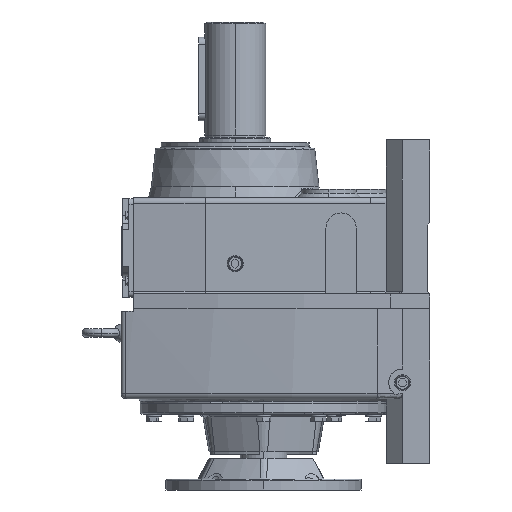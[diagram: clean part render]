
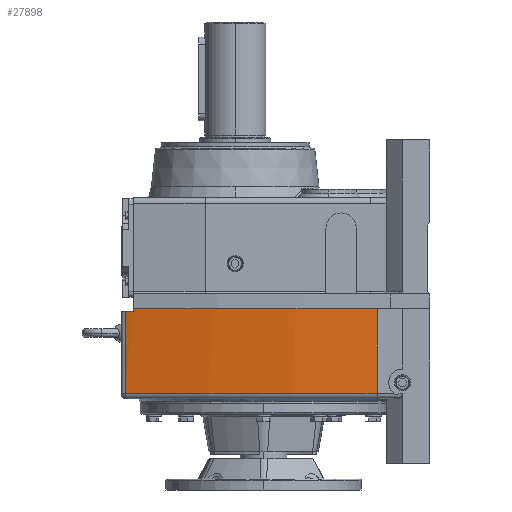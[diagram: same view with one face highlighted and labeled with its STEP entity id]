
A CAD part, left-side view. The second image highlights one B-rep face of the part: STEP entity #27898.
In plain terms, the highlighted cylindrical face has radius 1500 mm (diameter 3000 mm), a partial arc.
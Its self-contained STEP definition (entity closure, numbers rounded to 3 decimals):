
#50 = EDGE_CURVE ( 'NONE', #31100, #31091, #4059, .T. ) ;
#61 = EDGE_CURVE ( 'NONE', #31084, #31091, #20952, .T. ) ;
#1405 = LINE ( 'NONE', #35041, #29205 ) ;
#1412 = LINE ( 'NONE', #35055, #29216 ) ;
#1873 = DIRECTION ( 'NONE',  ( -1., 0., 0. ) ) ;
#1875 = DIRECTION ( 'NONE',  ( 0., 0., 1. ) ) ;
#1877 = CARTESIAN_POINT ( 'NONE',  ( 1233.2, -191.138, -283.5 ) ) ;
#2478 = DIRECTION ( 'NONE',  ( 0., 0., 1. ) ) ;
#2479 = CARTESIAN_POINT ( 'NONE',  ( -265.276, -258.733, -448. ) ) ;
#2784 = CARTESIAN_POINT ( 'NONE',  ( -218.874, 185., -288.5 ) ) ;
#2797 = CARTESIAN_POINT ( 'NONE',  ( -214.741, 200.612, -288.5 ) ) ;
#3180 = DIRECTION ( 'NONE',  ( 1., 0., 0. ) ) ;
#3182 = DIRECTION ( 'NONE',  ( 0., 0., -1. ) ) ;
#3184 = CARTESIAN_POINT ( 'NONE',  ( 1233.2, -191.138, -288.5 ) ) ;
#3496 = CIRCLE ( 'NONE', #3564, 1500. ) ;
#3564 = AXIS2_PLACEMENT_3D ( 'NONE', #3184, #3182, #3180 ) ;
#4029 = VECTOR ( 'NONE', #2478, 1000. ) ;
#4057 = AXIS2_PLACEMENT_3D ( 'NONE', #1877, #1875, #1873 ) ;
#4059 = CIRCLE ( 'NONE', #4057, 1500. ) ;
#4076 = EDGE_LOOP ( 'NONE', ( #10878, #10877, #10876, #10874, #10875, #10873 ) ) ;
#8369 = CARTESIAN_POINT ( 'NONE',  ( -214.741, 200.612, -438. ) ) ;
#10873 = ORIENTED_EDGE ( 'NONE', *, *, #50, .F. ) ;
#10874 = ORIENTED_EDGE ( 'NONE', *, *, #27158, .T. ) ;
#10875 = ORIENTED_EDGE ( 'NONE', *, *, #61, .T. ) ;
#10876 = ORIENTED_EDGE ( 'NONE', *, *, #27157, .T. ) ;
#10877 = ORIENTED_EDGE ( 'NONE', *, *, #33465, .T. ) ;
#10878 = ORIENTED_EDGE ( 'NONE', *, *, #27152, .T. ) ;
#11386 = CARTESIAN_POINT ( 'NONE',  ( -218.874, 185., -283.5 ) ) ;
#11392 = CARTESIAN_POINT ( 'NONE',  ( -265.276, -258.733, -283.5 ) ) ;
#11397 = CARTESIAN_POINT ( 'NONE',  ( -265.276, -258.733, -438. ) ) ;
#13700 = AXIS2_PLACEMENT_3D ( 'NONE', #25486, #25484, #25481 ) ;
#18378 = CYLINDRICAL_SURFACE ( 'NONE', #13700, 1500. ) ;
#18379 = FACE_OUTER_BOUND ( 'NONE', #4076, .T. ) ;
#20952 = LINE ( 'NONE', #2479, #4029 ) ;
#25481 = DIRECTION ( 'NONE',  ( 0., 1., 0. ) ) ;
#25484 = DIRECTION ( 'NONE',  ( 0., 0., 1. ) ) ;
#25486 = CARTESIAN_POINT ( 'NONE',  ( 1233.2, -191.138, -448. ) ) ;
#27152 = EDGE_CURVE ( 'NONE', #31100, #37761, #1412, .T. ) ;
#27157 = EDGE_CURVE ( 'NONE', #37751, #31698, #1405, .T. ) ;
#27158 = EDGE_CURVE ( 'NONE', #31698, #31084, #29215, .T. ) ;
#27898 = ADVANCED_FACE ( 'NONE', ( #18379 ), #18378, .T. ) ;
#29204 = AXIS2_PLACEMENT_3D ( 'NONE', #35036, #35035, #35034 ) ;
#29205 = VECTOR ( 'NONE', #35039, 1000. ) ;
#29215 = CIRCLE ( 'NONE', #29204, 1500. ) ;
#29216 = VECTOR ( 'NONE', #35054, 1000. ) ;
#31084 = VERTEX_POINT ( 'NONE', #11397 ) ;
#31091 = VERTEX_POINT ( 'NONE', #11392 ) ;
#31100 = VERTEX_POINT ( 'NONE', #11386 ) ;
#31698 = VERTEX_POINT ( 'NONE', #8369 ) ;
#33465 = EDGE_CURVE ( 'NONE', #37761, #37751, #3496, .T. ) ;
#35034 = DIRECTION ( 'NONE',  ( 1., 0., 0. ) ) ;
#35035 = DIRECTION ( 'NONE',  ( 0., 0., 1. ) ) ;
#35036 = CARTESIAN_POINT ( 'NONE',  ( 1233.2, -191.138, -438. ) ) ;
#35039 = DIRECTION ( 'NONE',  ( 0., 0., -1. ) ) ;
#35041 = CARTESIAN_POINT ( 'NONE',  ( -214.741, 200.612, -448. ) ) ;
#35054 = DIRECTION ( 'NONE',  ( 0., 0., -1. ) ) ;
#35055 = CARTESIAN_POINT ( 'NONE',  ( -218.874, 185., -448. ) ) ;
#37751 = VERTEX_POINT ( 'NONE', #2797 ) ;
#37761 = VERTEX_POINT ( 'NONE', #2784 ) ;
